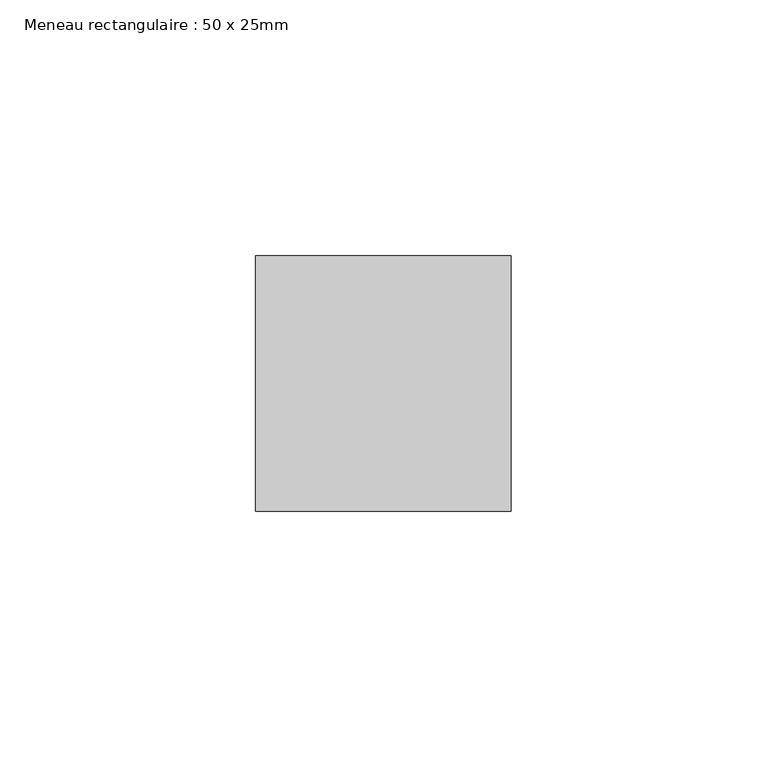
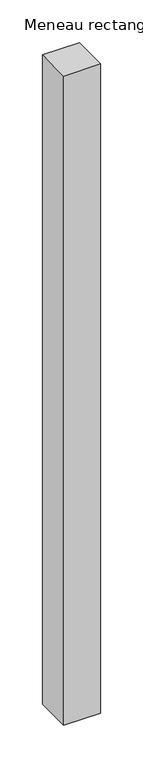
"""IFC4 building model written with IfcOpenShell, lengths in millimetres: member geometry, Meneau rectangulaire : 50 x 25mm."""

from ifc_helpers import new_model, si_unit, frame, origin, place, context, project, spatial, polyline, outline, extrude, source, transform, mapped, element, save


def meneau_rectangulaire_50_x_25mm_cc2cf73e(model_context):
    return source(origin(), model_context, "Body", "SweptSolid", [
        extrude(outline(polyline([(25.0, 0.0), (25.0, -50.0), (-25.0, -50.0), (-25.0, 0.0), (25.0, 0.0)])), frame((0.0, 0.0, -930.0), z_axis=(0.0, 0.0, 1.0), x_axis=(1.0, 0.0, 0.0)), (0.0, 0.0, 1.0), 930.0),
    ])


if __name__ == "__main__":
    model = new_model("IFC4")
    model_context = context("Model", 3, world=origin())
    ifc_project = project(units=[si_unit("LENGTHUNIT", "METRE", prefix="MILLI")], contexts=[model_context])
    site = spatial("IfcSite", under=ifc_project)
    building = spatial("IfcBuilding", under=site)
    placement = place(None, origin())
    meneau_rectangulaire_50_x_25mm_shape = meneau_rectangulaire_50_x_25mm_cc2cf73e(model_context)
    element("IfcMember", 1, ObjectType="Meneau rectangulaire : 50 x 25mm", at=placement, inside=building, context=model_context, shape_type="MappedRepresentation", body=[
        mapped(meneau_rectangulaire_50_x_25mm_shape, transform((0.0, 0.0, 0.0), x_axis=(1.0, 0.0, 0.0), y_axis=(0.0, 1.0, 0.0), z_axis=(0.0, 0.0, 1.0))),
    ])
    save(model, "model.ifc")
